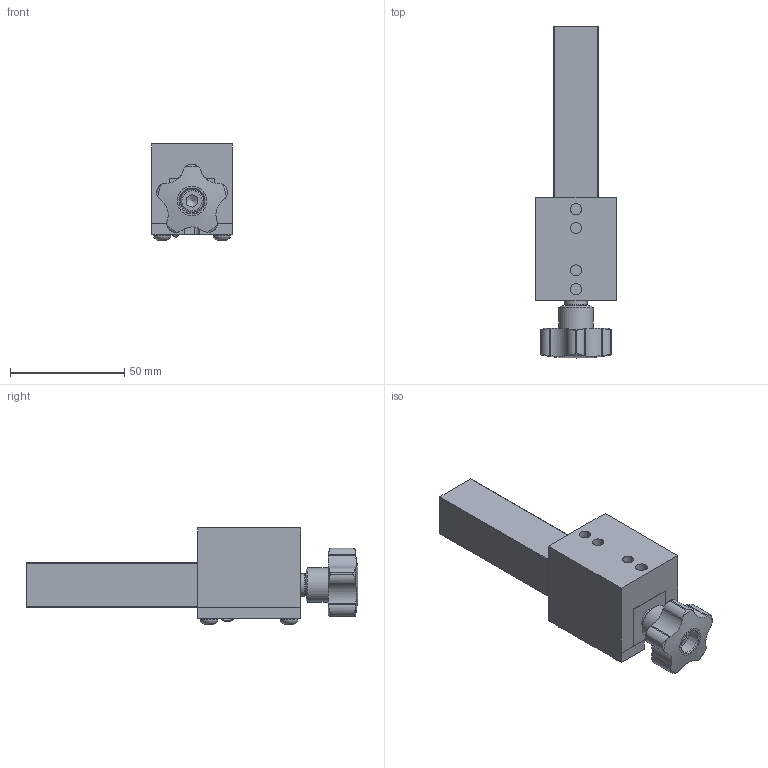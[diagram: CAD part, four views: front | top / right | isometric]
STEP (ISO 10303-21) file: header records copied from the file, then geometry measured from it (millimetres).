
FILE_DESCRIPTION(/* description */ (''),/* implementation_level */ '2;1');
FILE_NAME(/* name */ 'C:\Local Work Area\Progetti\AP\CALIBRI\34.00 CORSOIO\34.00.stp',/* time_stamp */ '2021-07-11T10:17:10+02:00',/* author */ ('HOME'),/* organization */ (''),/* preprocessor_version */ 'ST-DEVELOPER v18.1',/* originating_system */ 'Autodesk Inventor 2021',/* authorisation */ '');
FILE_SCHEMA (('AUTOMOTIVE_DESIGN { 1 0 10303 214 3 1 1 }'));
Length unit declared in the file: millimetre
Products named in the file (11): 34.00; 34.01; 34.02; 34.03; ISO 7380 - M4 x 12 - 12.9; 12010100; UNI 5931 - M 6 x  20; ISO 2338 - 4 m6 x 10 - A; 34.04; ISO 8735 - 6 x 24 - A; UNI 5923 - M4 x 0,7 x 8
Assembly tree (14 placements, depth 2):
  34.00
    34.01
    34.02
    34.03
    ISO 7380 - M4 x 12 - 12.9  x4
    12010100
    UNI 5931 - M 6 x  20
    ISO 2338 - 4 m6 x 10 - A  x2
    34.04
    ISO 8735 - 6 x 24 - A
    UNI 5923 - M4 x 0,7 x 8
Bounding box: 35 x 145 x 41.95 mm (x, y, z)
Volume: 95742.3 mm3; surface area: 35621.7 mm2
Topology: 14 solids, 14 shells, 273 faces, 682 edges, 448 vertices
Faces by surface type: plane 130, cylinder 80, cone 42, torus 16, bspline 4, sphere 1
Full cylindrical faces by diameter (mm): 3.242 x5, 3.243 x1, 4 x11, 4.3 x1, 4.5 x4, 4.916 x1, 4.917 x4, 5 x2, 6 x3, 7.6 x4, 9 x2, 9.5 x1, 9.6 x1, 10 x3, 15 x1, 15.9 x1
Entity records: 7661 total; most frequent: CARTESIAN_POINT 1868, DIRECTION 1129, ORIENTED_EDGE 1112, EDGE_CURVE 556, AXIS2_PLACEMENT_3D 426, VERTEX_POINT 372, LINE 277, VECTOR 277
